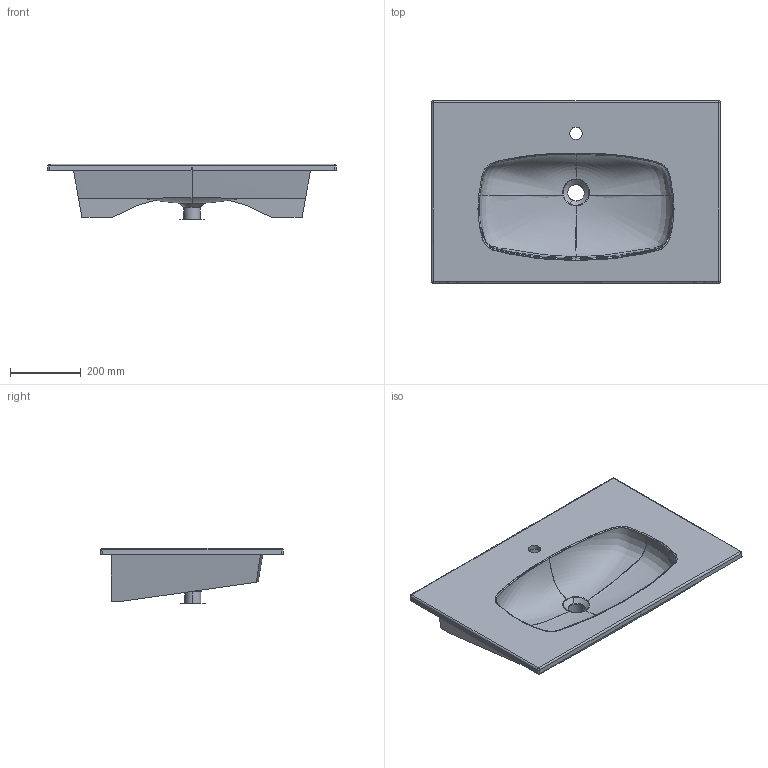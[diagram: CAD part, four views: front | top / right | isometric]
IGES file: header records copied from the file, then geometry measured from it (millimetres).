
Start section: START RECORD GO HERE.
Global section: file name: 3D Mabelle 81.igs; native system: DASSAULT SYSTEMES CATIA V5 R19 - www.3ds.com; preprocessor: CATIA Version 5 Release 19 SP 5 ; author: Luca; organization: DESKTOP-V7SON24; date: 20190411.134044; units: millimetre
Bounding box: 815.15 x 515.63 x 156.5 mm (x, y, z)
Surface area: 813939.9 mm2 (no closed solid volume)
Topology: 0 solids, 0 shells, 81 faces, 400 edges, 396 vertices
Faces by surface type: bspline 60, plane 11, revolution 10
